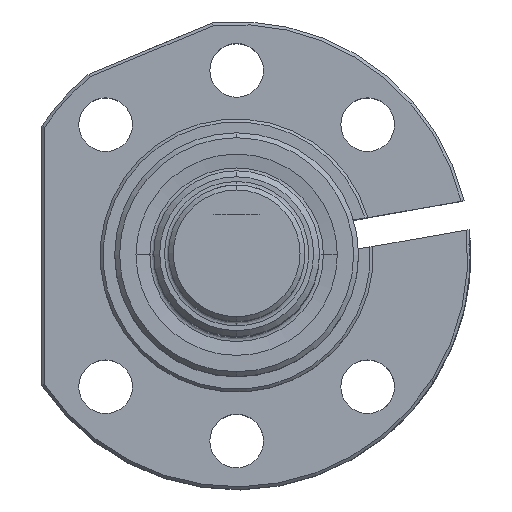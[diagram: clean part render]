
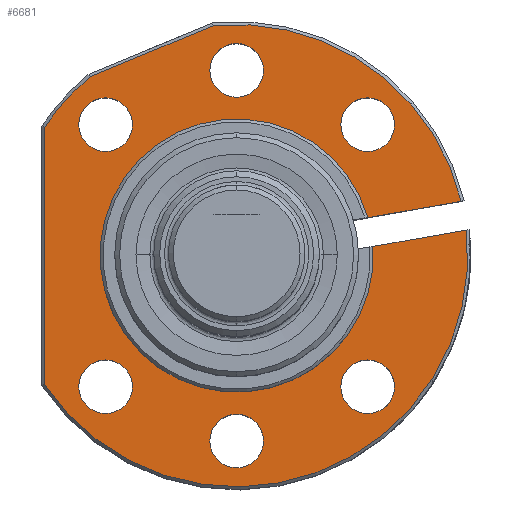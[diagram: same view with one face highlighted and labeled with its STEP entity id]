
A CAD part, top view. The second image highlights one B-rep face of the part: STEP entity #6681.
In plain terms, the highlighted planar face has unit normal (0, 0, 1).
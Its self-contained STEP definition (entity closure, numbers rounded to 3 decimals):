
#4832=CARTESIAN_POINT('',(0.,0.,15.));
#4833=DIRECTION('',(0.,0.,-1.));
#4834=DIRECTION('',(0.067,-0.998,0.));
#4835=AXIS2_PLACEMENT_3D('',#4832,#4833,#4834);
#5297=CARTESIAN_POINT('',(-13.435,-13.435,15.));
#5298=DIRECTION('',(0.,0.,-1.));
#5299=DIRECTION('',(-1.,0.,0.));
#5300=AXIS2_PLACEMENT_3D('',#5297,#5298,#5299);
#5305=CARTESIAN_POINT('',(-13.435,-13.435,15.));
#5306=DIRECTION('',(0.,0.,-1.));
#5307=DIRECTION('',(1.,0.,0.));
#5308=AXIS2_PLACEMENT_3D('',#5305,#5306,#5307);
#5313=CARTESIAN_POINT('',(-19.,0.,15.));
#5314=DIRECTION('',(0.,0.,-1.));
#5315=DIRECTION('',(-1.,0.,0.));
#5316=AXIS2_PLACEMENT_3D('',#5313,#5314,#5315);
#5321=CARTESIAN_POINT('',(-19.,0.,15.));
#5322=DIRECTION('',(0.,0.,-1.));
#5323=DIRECTION('',(1.,0.,0.));
#5324=AXIS2_PLACEMENT_3D('',#5321,#5322,#5323);
#5329=CARTESIAN_POINT('',(-13.435,13.435,15.));
#5330=DIRECTION('',(0.,0.,-1.));
#5331=DIRECTION('',(-1.,0.,0.));
#5332=AXIS2_PLACEMENT_3D('',#5329,#5330,#5331);
#5337=CARTESIAN_POINT('',(-13.435,13.435,15.));
#5338=DIRECTION('',(0.,0.,-1.));
#5339=DIRECTION('',(1.,0.,0.));
#5340=AXIS2_PLACEMENT_3D('',#5337,#5338,#5339);
#5345=CARTESIAN_POINT('',(13.435,-13.435,15.));
#5346=DIRECTION('',(0.,0.,1.));
#5347=DIRECTION('',(1.,0.,0.));
#5348=AXIS2_PLACEMENT_3D('',#5345,#5346,#5347);
#5353=CARTESIAN_POINT('',(13.435,-13.435,15.));
#5354=DIRECTION('',(0.,0.,1.));
#5355=DIRECTION('',(-1.,0.,0.));
#5356=AXIS2_PLACEMENT_3D('',#5353,#5354,#5355);
#5361=CARTESIAN_POINT('',(19.,0.,15.));
#5362=DIRECTION('',(0.,0.,1.));
#5363=DIRECTION('',(1.,0.,0.));
#5364=AXIS2_PLACEMENT_3D('',#5361,#5362,#5363);
#5369=CARTESIAN_POINT('',(19.,0.,15.));
#5370=DIRECTION('',(0.,0.,1.));
#5371=DIRECTION('',(-1.,0.,0.));
#5372=AXIS2_PLACEMENT_3D('',#5369,#5370,#5371);
#5377=CARTESIAN_POINT('',(13.435,13.435,15.));
#5378=DIRECTION('',(0.,0.,1.));
#5379=DIRECTION('',(1.,0.,0.));
#5380=AXIS2_PLACEMENT_3D('',#5377,#5378,#5379);
#5385=CARTESIAN_POINT('',(13.435,13.435,15.));
#5386=DIRECTION('',(0.,0.,1.));
#5387=DIRECTION('',(-1.,0.,0.));
#5388=AXIS2_PLACEMENT_3D('',#5385,#5386,#5387);
#5393=DIRECTION('',(0.174,-0.985,0.));
#5394=VECTOR('',#5393,9.733);
#5395=CARTESIAN_POINT('',(3.894,-13.447,15.));
#5396=LINE('',#5395,#5394);
#5400=DIRECTION('',(-0.174,0.985,0.));
#5401=VECTOR('',#5400,9.733);
#5402=CARTESIAN_POINT('',(2.63,-23.554,15.));
#5403=LINE('',#5402,#5401);
#5407=DIRECTION('',(-1.,0.,0.));
#5408=VECTOR('',#5407,26.351);
#5409=CARTESIAN_POINT('',(13.176,19.7,15.));
#5410=LINE('',#5409,#5408);
#5414=DIRECTION('',(-0.383,0.924,0.));
#5415=VECTOR('',#5414,13.624);
#5416=CARTESIAN_POINT('',(23.579,2.394,15.));
#5417=LINE('',#5416,#5415);
#5663=CARTESIAN_POINT('',(13.176,19.7,15.));
#5676=CARTESIAN_POINT('',(18.365,14.98,15.));
#5685=CARTESIAN_POINT('',(0.,0.,15.));
#5686=DIRECTION('',(0.,0.,1.));
#5687=DIRECTION('',(0.775,0.632,0.));
#5688=AXIS2_PLACEMENT_3D('',#5685,#5686,#5687);
#5703=CARTESIAN_POINT('',(0.,0.,15.));
#5704=DIRECTION('',(0.,0.,1.));
#5705=DIRECTION('',(0.236,-0.972,0.));
#5706=AXIS2_PLACEMENT_3D('',#5703,#5704,#5705);
#5715=CARTESIAN_POINT('',(23.579,2.394,15.));
#5746=CARTESIAN_POINT('',(-13.176,19.7,15.));
#5755=CARTESIAN_POINT('',(0.,0.,15.));
#5756=DIRECTION('',(0.,0.,1.));
#5757=DIRECTION('',(-0.556,0.831,0.));
#5758=AXIS2_PLACEMENT_3D('',#5755,#5756,#5757);
#6153=CARTESIAN_POINT('',(3.894,-13.447,15.));
#6154=CARTESIAN_POINT('',(5.584,-23.033,15.));
#6155=VERTEX_POINT('',#6153);
#6156=VERTEX_POINT('',#6154);
#6157=CARTESIAN_POINT('',(2.63,-23.554,15.));
#6158=CARTESIAN_POINT('',(0.94,-13.968,15.));
#6159=VERTEX_POINT('',#6157);
#6160=VERTEX_POINT('',#6158);
#6207=VERTEX_POINT('',#5746);
#6211=VERTEX_POINT('',#5663);
#6231=CARTESIAN_POINT('',(-16.185,-13.435,15.));
#6233=VERTEX_POINT('',#6231);
#6235=CARTESIAN_POINT('',(-10.685,-13.435,15.));
#6237=VERTEX_POINT('',#6235);
#6239=CARTESIAN_POINT('',(-21.75,0.,15.));
#6241=VERTEX_POINT('',#6239);
#6243=CARTESIAN_POINT('',(-16.25,0.,15.));
#6245=VERTEX_POINT('',#6243);
#6247=CARTESIAN_POINT('',(-16.185,13.435,15.));
#6249=VERTEX_POINT('',#6247);
#6251=CARTESIAN_POINT('',(-10.685,13.435,15.));
#6253=VERTEX_POINT('',#6251);
#6255=CARTESIAN_POINT('',(16.185,-13.435,15.));
#6257=VERTEX_POINT('',#6255);
#6259=CARTESIAN_POINT('',(10.685,-13.435,15.));
#6261=VERTEX_POINT('',#6259);
#6263=CARTESIAN_POINT('',(21.75,0.,15.));
#6265=VERTEX_POINT('',#6263);
#6267=CARTESIAN_POINT('',(16.25,0.,15.));
#6269=VERTEX_POINT('',#6267);
#6271=CARTESIAN_POINT('',(16.185,13.435,15.));
#6273=VERTEX_POINT('',#6271);
#6275=CARTESIAN_POINT('',(10.685,13.435,15.));
#6277=VERTEX_POINT('',#6275);
#6297=VERTEX_POINT('',#5676);
#6301=VERTEX_POINT('',#5715);
#6626=CARTESIAN_POINT('',(0.,0.,15.));
#6627=DIRECTION('',(0.,0.,-1.));
#6628=DIRECTION('',(1.,0.,0.));
#6629=AXIS2_PLACEMENT_3D('',#6626,#6627,#6628);
#6630=PLANE('',#6629);
#6631=ORIENTED_EDGE('',*,*,#6442,.F.);
#6632=ORIENTED_EDGE('',*,*,#6316,.F.);
#6634=ORIENTED_EDGE('',*,*,#6633,.F.);
#6636=ORIENTED_EDGE('',*,*,#6635,.F.);
#6638=ORIENTED_EDGE('',*,*,#6637,.F.);
#6640=ORIENTED_EDGE('',*,*,#6639,.F.);
#6642=ORIENTED_EDGE('',*,*,#6641,.F.);
#6644=ORIENTED_EDGE('',*,*,#6643,.F.);
#6645=EDGE_LOOP('',(#6631,#6632,#6634,#6636,#6638,#6640,#6642,#6644));
#6646=FACE_OUTER_BOUND('',#6645,.F.);
#6648=ORIENTED_EDGE('',*,*,#6647,.F.);
#6650=ORIENTED_EDGE('',*,*,#6649,.F.);
#6651=EDGE_LOOP('',(#6648,#6650));
#6652=FACE_BOUND('',#6651,.F.);
#6654=ORIENTED_EDGE('',*,*,#6653,.F.);
#6656=ORIENTED_EDGE('',*,*,#6655,.F.);
#6657=EDGE_LOOP('',(#6654,#6656));
#6658=FACE_BOUND('',#6657,.F.);
#6660=ORIENTED_EDGE('',*,*,#6659,.T.);
#6662=ORIENTED_EDGE('',*,*,#6661,.T.);
#6663=EDGE_LOOP('',(#6660,#6662));
#6664=FACE_BOUND('',#6663,.F.);
#6666=ORIENTED_EDGE('',*,*,#6665,.T.);
#6668=ORIENTED_EDGE('',*,*,#6667,.T.);
#6669=EDGE_LOOP('',(#6666,#6668));
#6670=FACE_BOUND('',#6669,.F.);
#6672=ORIENTED_EDGE('',*,*,#6671,.T.);
#6674=ORIENTED_EDGE('',*,*,#6673,.T.);
#6675=EDGE_LOOP('',(#6672,#6674));
#6676=FACE_BOUND('',#6675,.F.);
#6677=ORIENTED_EDGE('',*,*,#6599,.F.);
#6678=ORIENTED_EDGE('',*,*,#6615,.F.);
#6679=EDGE_LOOP('',(#6677,#6678));
#6680=FACE_BOUND('',#6679,.F.);
#4836=CIRCLE('',#4835,14.);
#5301=CIRCLE('',#5300,2.75);
#5309=CIRCLE('',#5308,2.75);
#5317=CIRCLE('',#5316,2.75);
#5325=CIRCLE('',#5324,2.75);
#5333=CIRCLE('',#5332,2.75);
#5341=CIRCLE('',#5340,2.75);
#5349=CIRCLE('',#5348,2.75);
#5357=CIRCLE('',#5356,2.75);
#5365=CIRCLE('',#5364,2.75);
#5373=CIRCLE('',#5372,2.75);
#5381=CIRCLE('',#5380,2.75);
#5389=CIRCLE('',#5388,2.75);
#5689=CIRCLE('',#5688,23.7);
#5707=CIRCLE('',#5706,23.7);
#5759=CIRCLE('',#5758,23.7);
#6316=EDGE_CURVE('',#6160,#6155,#4836,.T.);
#6442=EDGE_CURVE('',#6155,#6156,#5396,.T.);
#6599=EDGE_CURVE('',#6233,#6237,#5301,.T.);
#6615=EDGE_CURVE('',#6237,#6233,#5309,.T.);
#6633=EDGE_CURVE('',#6159,#6160,#5403,.T.);
#6635=EDGE_CURVE('',#6207,#6159,#5759,.T.);
#6637=EDGE_CURVE('',#6211,#6207,#5410,.T.);
#6639=EDGE_CURVE('',#6297,#6211,#5689,.T.);
#6641=EDGE_CURVE('',#6301,#6297,#5417,.T.);
#6643=EDGE_CURVE('',#6156,#6301,#5707,.T.);
#6647=EDGE_CURVE('',#6241,#6245,#5317,.T.);
#6649=EDGE_CURVE('',#6245,#6241,#5325,.T.);
#6653=EDGE_CURVE('',#6249,#6253,#5333,.T.);
#6655=EDGE_CURVE('',#6253,#6249,#5341,.T.);
#6659=EDGE_CURVE('',#6257,#6261,#5349,.T.);
#6661=EDGE_CURVE('',#6261,#6257,#5357,.T.);
#6665=EDGE_CURVE('',#6265,#6269,#5365,.T.);
#6667=EDGE_CURVE('',#6269,#6265,#5373,.T.);
#6671=EDGE_CURVE('',#6273,#6277,#5381,.T.);
#6673=EDGE_CURVE('',#6277,#6273,#5389,.T.);
#6681=ADVANCED_FACE('',(#6646,#6652,#6658,#6664,#6670,#6676,#6680),#6630,.F.);
